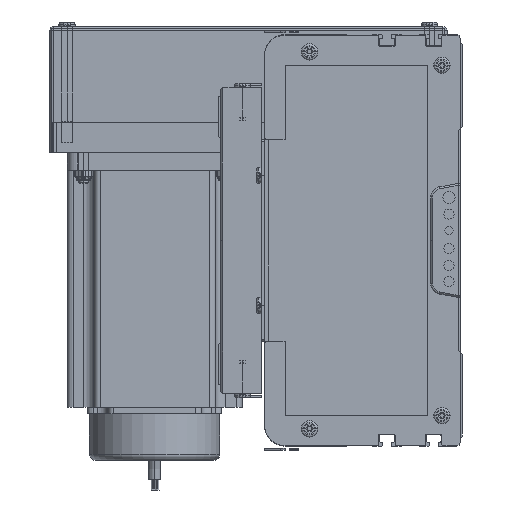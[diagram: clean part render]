
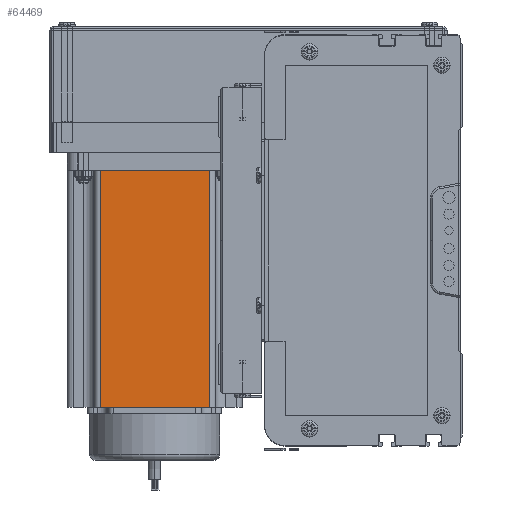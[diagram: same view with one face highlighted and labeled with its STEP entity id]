
A CAD part, left-side view. The second image highlights one B-rep face of the part: STEP entity #64469.
In plain terms, the highlighted planar face has unit normal (-1, 0, 0) as drawn and (0, -1, 0) by its records, which use the part's own axes.
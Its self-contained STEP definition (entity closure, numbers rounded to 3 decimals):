
#51561 = CARTESIAN_POINT ( 'NONE',  ( 69.74, 0., 116.5 ) ) ;
#51563 = LINE ( 'NONE', #51561, #51726 ) ;
#51671 = DIRECTION ( 'NONE',  ( 0., 0., 1. ) ) ;
#51726 = VECTOR ( 'NONE', #51671, 1000. ) ;
#51728 = DIRECTION ( 'NONE',  ( 0., 0., -1. ) ) ;
#51729 = VECTOR ( 'NONE', #51728, 1000. ) ;
#51732 = CARTESIAN_POINT ( 'NONE',  ( 16.16, 0., 116.5 ) ) ;
#51733 = LINE ( 'NONE', #51732, #51729 ) ;
#51960 = DIRECTION ( 'NONE',  ( 1., 0., 0. ) ) ;
#51962 = VECTOR ( 'NONE', #51960, 1000. ) ;
#51965 = CARTESIAN_POINT ( 'NONE',  ( 0., 0., 116.5 ) ) ;
#51966 = LINE ( 'NONE', #51965, #51962 ) ;
#64138 = EDGE_CURVE ( 'NONE', #64426, #64637, #51733, .T. ) ;
#64150 = ORIENTED_EDGE ( 'NONE', *, *, #64649, .T. ) ;
#64152 = EDGE_CURVE ( 'NONE', #64652, #64606, #51563, .T. ) ;
#64174 = ORIENTED_EDGE ( 'NONE', *, *, #64152, .T. ) ;
#64191 = EDGE_LOOP ( 'NONE', ( #64150, #64174, #64280, #64529 ) ) ;
#64280 = ORIENTED_EDGE ( 'NONE', *, *, #64304, .F. ) ;
#64304 = EDGE_CURVE ( 'NONE', #64426, #64606, #51966, .T. ) ;
#64426 = VERTEX_POINT ( 'NONE', #69468 ) ;
#64469 = ADVANCED_FACE ( 'NONE', ( #69317 ), #69395, .F. ) ;
#64529 = ORIENTED_EDGE ( 'NONE', *, *, #64138, .T. ) ;
#64606 = VERTEX_POINT ( 'NONE', #69507 ) ;
#64637 = VERTEX_POINT ( 'NONE', #69495 ) ;
#64649 = EDGE_CURVE ( 'NONE', #64637, #64652, #69498, .T. ) ;
#64652 = VERTEX_POINT ( 'NONE', #69597 ) ;
#69314 = CARTESIAN_POINT ( 'NONE',  ( 0., 0., 116.5 ) ) ;
#69317 = FACE_OUTER_BOUND ( 'NONE', #64191, .T. ) ;
#69382 = DIRECTION ( 'NONE',  ( 0., 0., 1. ) ) ;
#69383 = DIRECTION ( 'NONE',  ( 0., 1., 0. ) ) ;
#69393 = AXIS2_PLACEMENT_3D ( 'NONE', #69314, #69383, #69382 ) ;
#69395 = PLANE ( 'NONE',  #69393 ) ;
#69468 = CARTESIAN_POINT ( 'NONE',  ( 16.16, 0., 116.5 ) ) ;
#69495 = CARTESIAN_POINT ( 'NONE',  ( 16.16, 0., 0. ) ) ;
#69497 = CARTESIAN_POINT ( 'NONE',  ( 0., 0., 0. ) ) ;
#69498 = LINE ( 'NONE', #69497, #69596 ) ;
#69507 = CARTESIAN_POINT ( 'NONE',  ( 69.74, 0., 116.5 ) ) ;
#69595 = DIRECTION ( 'NONE',  ( 1., 0., 0. ) ) ;
#69596 = VECTOR ( 'NONE', #69595, 1000. ) ;
#69597 = CARTESIAN_POINT ( 'NONE',  ( 69.74, 0., 0. ) ) ;
